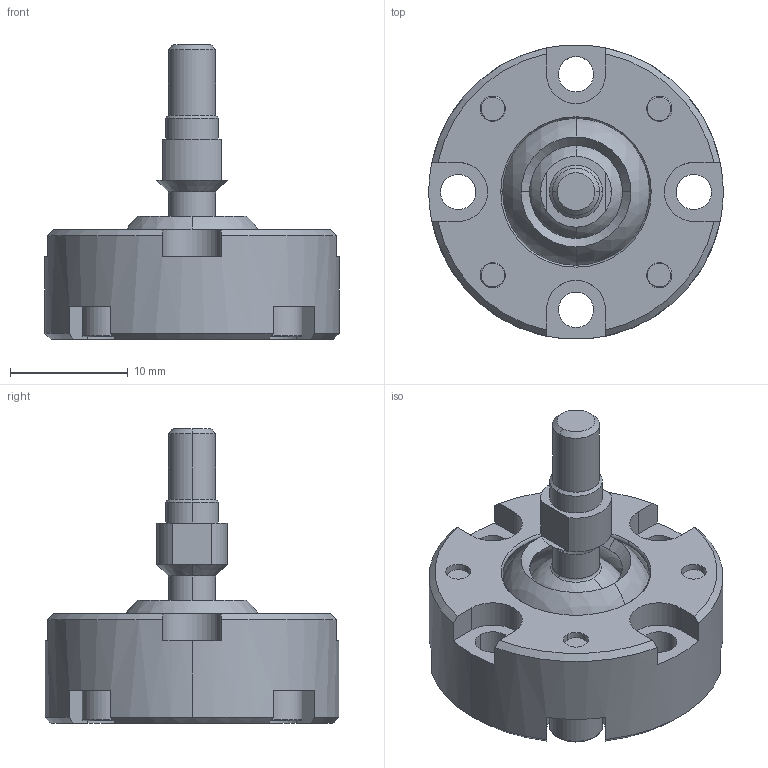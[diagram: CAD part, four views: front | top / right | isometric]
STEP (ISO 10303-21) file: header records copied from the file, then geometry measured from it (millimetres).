
FILE_DESCRIPTION (( 'STEP AP203' ), '1' );
FILE_NAME ('SRJ006CP.STEP', '2023-03-30T08:37:16', ( '' ), ( '' ), 'SwSTEP 2.0', 'SolidWorks 2023', '' );
FILE_SCHEMA (( 'CONFIG_CONTROL_DESIGN' ));
Length unit declared in the file: millimetre
Products named in the file (1): SRJ006CP
Bounding box: 25 x 24.94 x 25 mm (x, y, z)
Volume: 3862.9 mm3; surface area: 4205.4 mm2
Topology: 7 solids, 7 shells, 223 faces, 552 edges, 338 vertices
Faces by surface type: plane 96, cylinder 62, cone 35, torus 22, sphere 8
Entity records: 6540 total; most frequent: DIRECTION 1217, CARTESIAN_POINT 1122, ORIENTED_EDGE 1048, EDGE_CURVE 524, AXIS2_PLACEMENT_3D 485, VERTEX_POINT 326, CIRCLE 261, EDGE_LOOP 254
